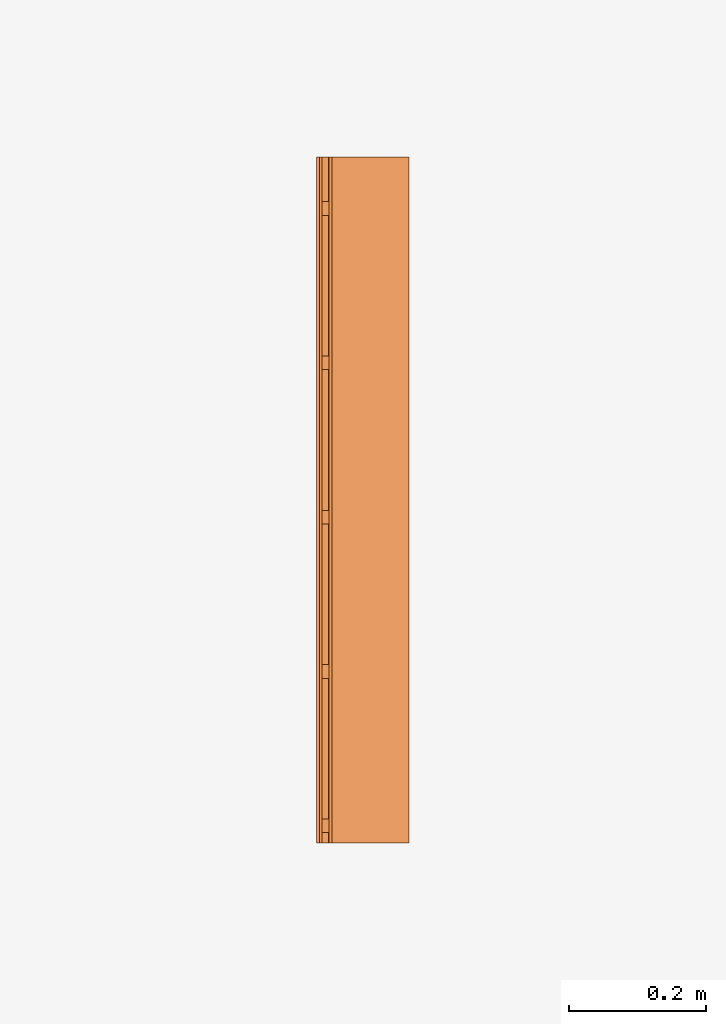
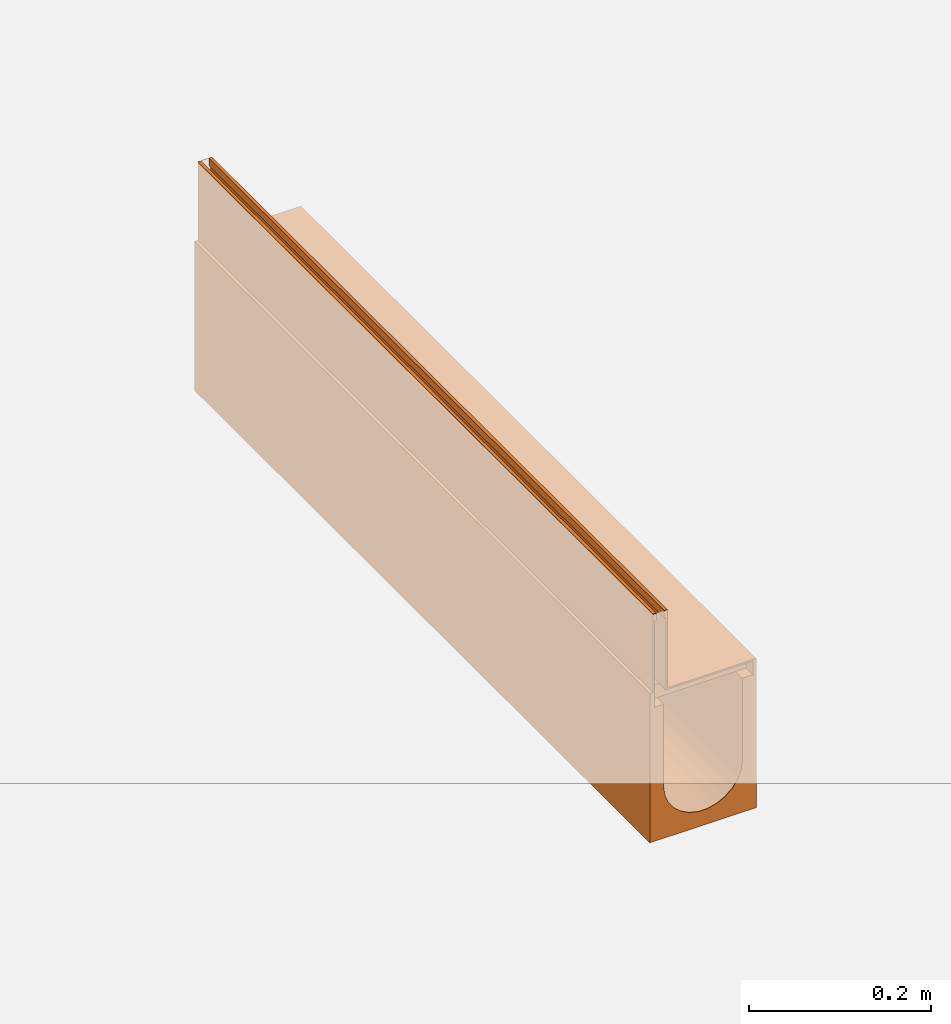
# One storey, part 2 of 2: 1 proxy.
"""IFC2X3 building model written with IfcOpenShell, lengths in millimetres."""

from ifc_helpers import new_model, entity, si_unit, converted_unit, direction, frame, frame_2d, origin, place, context, subcontext, project, spatial, polyline, circle_curve, parameter, trimmed, segment, composite_curve, outline, extrude, source, transform, mapped, material, material_list, element, save


model = new_model("IFC2X3")

# Units and contexts
model_context = context("Model", 3, precision=1e-06, world=origin(), true_north=direction((2.0, 6.12303176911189e-17, 1.0)))
context_of_model = context(None, 3, precision=1e-06, world=origin(), true_north=direction((2.0, 6.12303176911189e-17, 1.0)))
body_context = subcontext(model_context, "Body", "Model", "MODEL_VIEW")
ifc_project = project(units=[si_unit("LENGTHUNIT", "METRE", prefix="MILLI"), si_unit("AREAUNIT", "SQUARE_METRE", prefix="MILLI"), si_unit("VOLUMEUNIT", "CUBIC_METRE", prefix="MILLI"), converted_unit("PLANEANGLEUNIT", "DEGREE", entity("IfcRatioMeasure", 0.0174532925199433), si_unit("PLANEANGLEUNIT", "RADIAN"), dimensions=[0, 0, 0, 0, 0, 0, 0]), si_unit("TIMEUNIT", "SECOND")], contexts=[model_context, context_of_model])

# Site, building, storey
site_placement = place(None, origin())
site = spatial("IfcSite", under=ifc_project, at=site_placement, Name="Default", CompositionType="ELEMENT")
building_placement = place(site_placement, origin())
building = spatial("IfcBuilding", under=site, at=building_placement, CompositionType="ELEMENT")
storey_placement = place(building_placement, origin())
storey = spatial("IfcBuildingStorey", under=building, at=storey_placement, Name="Level 1", CompositionType="ELEMENT", Elevation=0.0)

# Proxy
ifc_material_1 = material(Name="Vienite® Synthetic Resin Concrete")
ifc_material_2 = material(Name="Stainless Steel (F)")
ifc_material_list = material_list([ifc_material_1, ifc_material_2])
shared_shape = source(origin(), body_context, "Body", "SweptSolid", [
    extrude(outline(composite_curve([segment(polyline([(-63.2499999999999, -41.3333333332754), (-50.0, -41.3333333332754)]), True, "CONTINUOUS"), segment(polyline([(-50.0, -41.3333333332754), (-50.0, 68.1666666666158)]), True, "CONTINUOUS"), segment(trimmed(circle_curve(frame_2d((0.0, 68.1666666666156), x_axis=(1.0, 0.0)), 50.0000000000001), [parameter(0.0)], [parameter(180.0)], True, "PARAMETER"), False, "CONTINUOUS"), segment(polyline([(50.0, 68.1666666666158), (50.0, -41.3333333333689)]), True, "CONTINUOUS"), segment(polyline([(50.0, -41.3333333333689), (63.2499999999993, -41.3333333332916)]), True, "CONTINUOUS"), segment(polyline([(63.2499999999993, -41.3333333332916), (63.2499999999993, -61.833333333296)]), True, "CONTINUOUS"), segment(polyline([(63.2499999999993, -61.833333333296), (67.5000000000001, -61.833333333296)]), True, "CONTINUOUS"), segment(polyline([(67.5000000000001, -61.833333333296), (67.5000000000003, 138.166666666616)]), True, "CONTINUOUS"), segment(polyline([(67.5000000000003, 138.166666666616), (-67.4999999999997, 138.166666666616)]), True, "CONTINUOUS"), segment(polyline([(-67.4999999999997, 138.166666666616), (-67.5, -61.8333333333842)]), True, "CONTINUOUS"), segment(polyline([(-67.5, -61.8333333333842), (-63.2499999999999, -61.8333333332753)]), True, "CONTINUOUS"), segment(polyline([(-63.2499999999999, -61.8333333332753), (-63.2499999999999, -41.3333333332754)]), True, "CONTINUOUS")], self_intersect=False)), frame((0.0, 0.0, -166.833333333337), z_axis=(0.0, 1.0, 0.0), x_axis=(1.0, 0.0, 0.0)), (0.0, 0.0, 1.0), 1000.0),
    extrude(outline(polyline([(-9.24999999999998, -10.0), (9.25000000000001, -10.0), (9.24999999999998, 10.0), (-9.25000000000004, 10.0), (-9.24999999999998, -10.0)]), holes=[polyline([(7.25000000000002, -8.0), (-7.25000000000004, -8.0), (-7.25000000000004, 8.0), (7.24999999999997, 8.0), (7.25000000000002, -8.0)])]), frame((-61.2500000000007, 25.0, -116.249999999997), z_axis=(1.0, 0.0, 0.0), x_axis=(0.0, 0.0, -1.0)), (0.0, 0.0, 1.0), 124.5),
    extrude(outline(polyline([(-9.24999999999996, -10.0), (9.25000000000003, -10.0), (9.24999999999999, 10.0), (-9.25000000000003, 10.0), (-9.24999999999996, -10.0)]), holes=[polyline([(7.25000000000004, -8.0), (-7.25000000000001, -8.0), (-7.25000000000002, 8.0), (7.24999999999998, 8.0), (7.25000000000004, -8.0)])]), frame((-61.2500000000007, 250.0, -116.249999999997), z_axis=(1.0, 0.0, 0.0), x_axis=(0.0, 0.0, -1.0)), (0.0, 0.0, 1.0), 124.5),
    extrude(outline(polyline([(-9.24999999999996, -10.0), (9.25000000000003, -10.0), (9.24999999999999, 10.0), (-9.25000000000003, 10.0), (-9.24999999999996, -10.0)]), holes=[polyline([(7.25000000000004, -8.0), (-7.25000000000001, -8.0), (-7.25000000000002, 8.0), (7.24999999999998, 8.0), (7.25000000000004, -8.0)])]), frame((-61.2500000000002, 475.0, -116.249999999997), z_axis=(1.0, 0.0, 0.0), x_axis=(0.0, 0.0, -1.0)), (0.0, 0.0, 1.0), 124.5),
    extrude(outline(polyline([(45.5, -29.6250000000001), (55.5, -29.6250000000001), (55.5, -25.6249999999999), (-49.5, -25.6249999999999), (-49.5000000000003, 82.875), (-51.5, 82.875), (-51.4999999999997, -27.625), (45.5, -27.625), (45.5, -29.6250000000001)])), frame((-19.6250000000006, 0.0, -55.4999999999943), z_axis=(0.0, 1.0, 0.0), x_axis=(0.0, 0.0, 1.0)), (0.0, 0.0, 1.0), 1000.0),
    extrude(outline(polyline([(-80.3333333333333, -2.0), (45.1666666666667, -2.0), (45.1666666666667, 2.0), (35.1666666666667, 2.0), (35.1666666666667, 0.0), (-80.3333333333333, 0.0), (-80.3333333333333, -2.0)])), frame((-61.2500000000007, 0.0, -45.166666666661), z_axis=(0.0, 1.0, 0.0), x_axis=(0.0, 0.0, 1.0)), (0.0, 0.0, 1.0), 1000.0),
    extrude(outline(polyline([(-9.25000000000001, -10.0), (9.24999999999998, -10.0), (9.25000000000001, 10.0), (-9.25000000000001, 10.0), (-9.25000000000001, -10.0)]), holes=[polyline([(7.24999999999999, -8.0), (-7.25000000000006, -8.0), (-7.25000000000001, 8.0), (7.24999999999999, 8.0), (7.24999999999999, -8.0)])]), frame((-61.2500000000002, 700.0, -116.249999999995), z_axis=(1.0, 0.0, 0.0), x_axis=(0.0, 0.0, -1.0)), (0.0, 0.0, 1.0), 124.5),
    extrude(outline(polyline([(-9.24999999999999, -10.0), (9.24999999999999, -10.0), (9.25000000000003, 10.0), (-9.24999999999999, 10.0), (-9.24999999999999, -10.0)]), holes=[polyline([(7.25000000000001, -8.0), (-7.25000000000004, -8.0), (-7.24999999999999, 8.0), (7.25000000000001, 8.0), (7.25000000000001, -8.0)])]), frame((-61.2499999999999, 925.0, -116.249999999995), z_axis=(1.0, 0.0, 0.0), x_axis=(0.0, 0.0, -1.0)), (0.0, 0.0, 1.0), 124.5),
])
proxy_placement = place(storey_placement, frame((0.0, -230.0, 0.0)))
element("IfcBuildingElementProxy", 1, at=proxy_placement, inside=storey, material=ifc_material_list, Name="Civil-Drainage-Channel-ACO-MultiDrain-M100DS-Brickslot-Channel-System:24100 - No 10.0 Constant Depth Channel - 1000mm LG - Invert Depth 180mm:24100 - No 10.0 Constant Depth Channel - 1000mm LG - Invert Depth 180mm", ObjectType="24100 - No 10.0 Constant Depth Channel - 1000mm LG - Invert Depth 180mm", CompositionType="ELEMENT", context=body_context, shape_type="MappedRepresentation", body=[
    mapped(shared_shape, transform((0.0, 0.0, 0.0), scale=1.0)),
])

save(model, "model.ifc")
